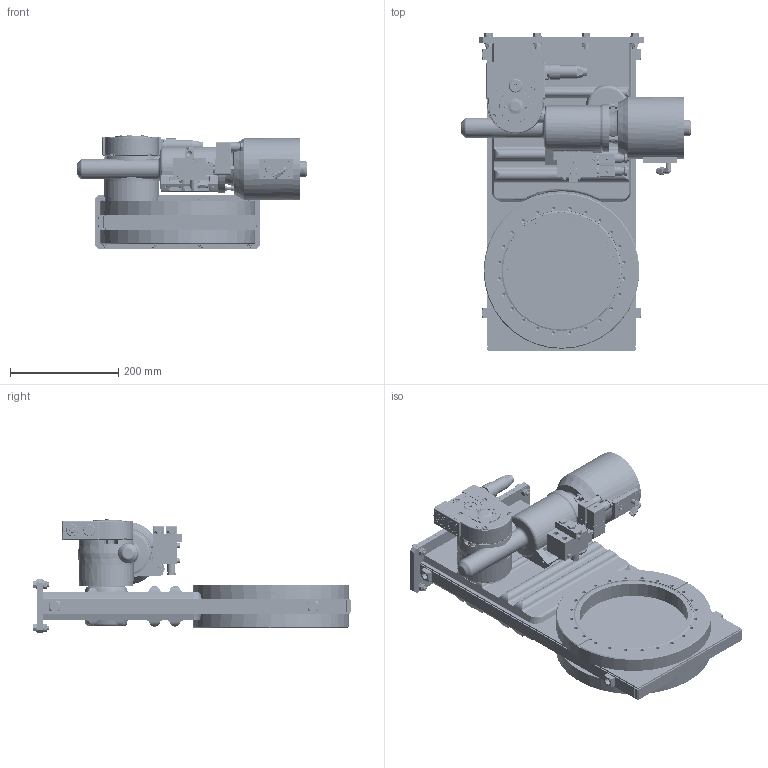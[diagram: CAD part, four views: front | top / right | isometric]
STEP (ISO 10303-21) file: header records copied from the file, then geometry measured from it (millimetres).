
FILE_DESCRIPTION(/* description */ (''),/* implementation_level */ '2;1');
FILE_NAME(/* name */ '1389188476_203.stp',/* time_stamp */ '2021-07-09T15:01:48+02:00',/* author */ (''),/* organization */ (''),/* preprocessor_version */ 'ST-DEVELOPER v16.7',/* originating_system */ 'SIEMENS PLM Software NX 1915',/* authorisation */ '');
FILE_SCHEMA (('AP203_CONFIGURATION_CONTROLLED_3D_DESIGN_OF_MECHANICAL_PARTS_AND_ASSEMBLIES_MIM_LF { 1 0 10303 403 2 1 2}'));
Products named in the file (63): 1009931; 467863; 467864; N-7501-501_1.2; N-7501-501_2.2; 326349.1; 46906-01.4; 46905-01.4; 46905-03.4; 90391-01.1; 45736-03.1; N-6051-011.1; N-7618-010.2; N-6160-011.1; N-5062-002.1; N-6016-152.1; N-7015-015.2; n-7016-010; 78539-01.1; 48742-01.1; N-6036-003.1; n-7612-031; 46917-01.2; 47987-01.1_30358ID; 47987-01.1; n-6160-411.1; n-5021-515.1; 78209-01_1.2; 226266.1; 73289-01.3; 226296.1; N-6039-010.1; N-6203-417.1; N-6005-425.1; N-6001-456.1; 226258.2; N-6005-474.1; N-6053-411.2; N-6072-440.1; 60538-01_2.1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
Assembly tree (130 placements, depth 4):
  855325
    77785-01.2
    87183-01.2
    47990-R1.6
      47987-01.1
      47987-01.1_30358ID
      46904-R1.10
        45736-03.1  x2
        90391-01.1
        46905-03.4
        46905-01.4
        46906-01.4
        326349.1  x4
      46917-01.2
    47031-01.4
    N-6053-412.2  x8
    N-5021-497.1  x8
    n-6131-414  x16
    77783-01.2
    N-6016-123.1  x4
    N-6029-102.1  x2
    n-8504-002
    N-6289-133.2
    N-6027-015.3  x2
    60532-01_1.2  x2
    N-8504-102.3
    60538-01.1
    N-6029-112.1  x2
    60539-01.1
    60538-01_2.1
    N-6072-440.1
    N-6053-411.2  x3
    N-6005-474.1  x6
    226258.2
    N-6001-456.1  x3
    N-6005-425.1  x4
    N-6203-417.1
    N-6039-010.1
    226296.1
    73289-01.3
    226266.1
    78209-01_1.2
    n-5021-515.1  x2
    n-6160-411.1  x2
    84476-r1_1.2
      N-7501-501.4_NX-ARRAGMNTKONFIG1  x2
        N-7501-501_2.2
        N-7501-501_1.2
      n-7612-031
      N-6036-003.1  x2
      n-8501-300_NX-ARRAGMNTArrangement 1  x2
        467864
        467863
        1009931
      48742-01.1
      78539-01.1
      n-7016-010  x4
      N-7015-015.2  x4
      N-6016-152.1  x2
      N-5062-002.1  x2
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Bounding box: 425.45 x 587.9 x 211.95 mm (x, y, z)
Volume: 5469236.4 mm3; surface area: 1744382.7 mm2
Topology: 195 solids, 195 shells, 4536 faces, 10580 edges, 6811 vertices
Faces by surface type: plane 2301, cylinder 1336, cone 468, bspline 256, torus 112, extrusion 42, sphere 21
Full cylindrical faces by diameter (mm): 1.1 x1, 1.3 x2, 1.5 x7, 1.6 x2, 1.66 x7, 1.8 x7, 2 x24, 2.2 x2, 2.25 x20, 2.387 x4, 2.45 x20, 2.46 x4, 2.5 x5, 2.55 x4, 2.657 x1, 2.8 x8, 2.9 x4, 3 x23, 3.025 x8, 3.07 x12, 3.2 x8, 3.251 x1, 3.26 x4, 3.28 x8, 3.3 x8, 3.4 x4, 3.6 x2, 3.8 x1, 3.85 x4, 4 x15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
Entity records: 102672 total; most frequent: CARTESIAN_POINT 28543, DIRECTION 13435, ORIENTED_EDGE 12610, EDGE_CURVE 6305, AXIS2_PLACEMENT_3D 5314, VERTEX_POINT 4563, EDGE_LOOP 4328, ADVANCED_FACE 3014
